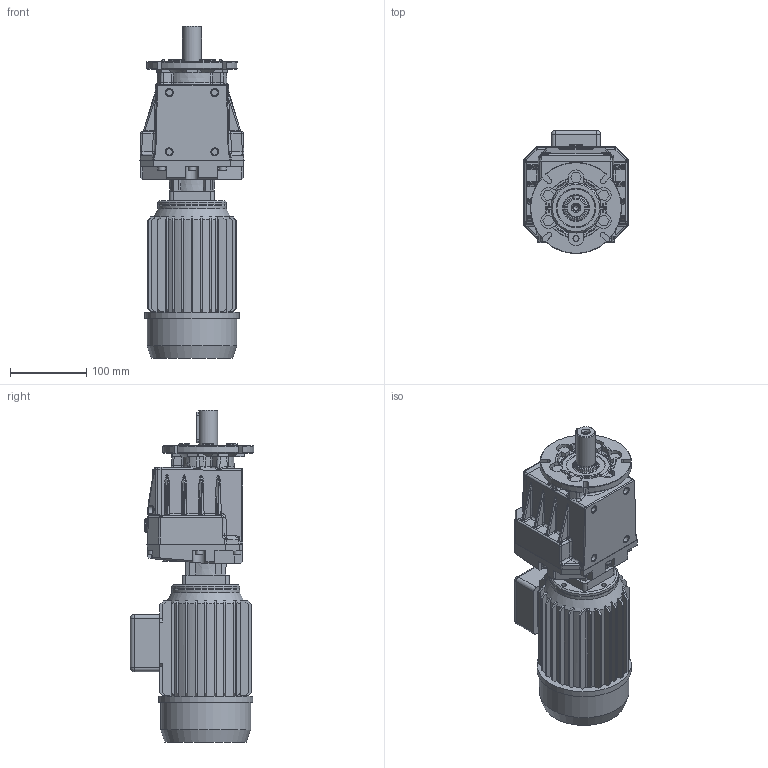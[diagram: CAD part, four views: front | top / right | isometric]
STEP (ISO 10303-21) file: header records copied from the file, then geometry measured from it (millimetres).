
FILE_DESCRIPTION( ( 'Unknown' ), '1' );
FILE_NAME( 'E:/services/configuratordownloads/customers/HYDROMEC/COASSIALI/download/CEE594798830E1FCD88BF597D8C3BB79/STEP/CEE594798830E1FCD88BF597D8C3BB79.3d.stp', 'Unknown', ( 'Unknown' ), ( 'Unknown' ), 'PSStep 10.1', 'Unknown', ' ' );
FILE_SCHEMA( ( 'AUTOMOTIVE_DESIGN { 1 0 10303 214 1 1 1 1 }' ) );
Length unit declared in the file: millimetre
Products named in the file (1): C418800
Bounding box: 136.8 x 161.97 x 436.5 mm (x, y, z)
Volume: 4086734.3 mm3; surface area: 302685.6 mm2
Topology: 1 solids, 24 shells, 1341 faces, 3383 edges, 2151 vertices
Faces by surface type: plane 762, cylinder 286, bspline 164, cone 87, torus 33, sphere 6, extrusion 3
Full cylindrical faces by diameter (mm): 4.2 x4, 4.917 x4, 6.5 x5, 6.647 x6, 7 x8, 8 x1, 8.376 x4, 8.4 x1, 8.5 x5, 9.9 x8, 10 x4, 11 x4, 13.5 x1, 18 x1, 19 x1, 22 x1, 24.6 x1, 25 x2, 30 x1, 40 x1, 45 x1, 60 x1, 66 x1, 90 x1, 105 x1, 118 x1, 124 x1
Entity records: 60046 total; most frequent: CARTESIAN_POINT 19417, ORIENTED_EDGE 6354, DIRECTION 5600, EDGE_CURVE 3177, VERTEX_POINT 2093, AXIS2_PLACEMENT_3D 1867, VECTOR 1866, LINE 1863
